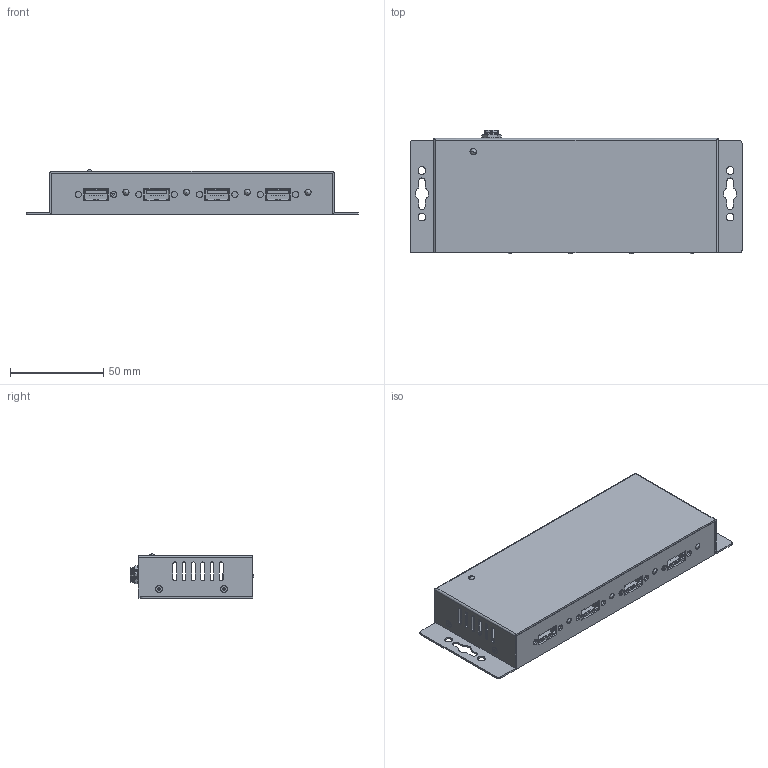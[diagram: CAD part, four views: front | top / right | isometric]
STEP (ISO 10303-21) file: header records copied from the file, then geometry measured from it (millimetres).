
FILE_DESCRIPTION(('FreeCAD Model'),'2;1');
FILE_NAME('Y:/Technische Zeichnungen/EX-1166HMV/EX-1166HMV_3D.STEP', '2018-05-09T11:20:03',('Author'),(''), 'Open CASCADE STEP processor 6.8','FreeCAD','Unknown');
FILE_SCHEMA(('AUTOMOTIVE_DESIGN_CC2 { 1 2 10303 214 -1 1 5 4 }'));
Products named in the file (1): EX-1166HMV_3D
Bounding box: 178.4 x 66.57 x 23.87 mm (x, y, z)
Volume: 48057.5 mm3; surface area: 88491 mm2
Topology: 5 solids, 5 shells, 1956 faces, 5507 edges, 3618 vertices
Faces by surface type: plane 1159, cylinder 571, cone 119, torus 56, bspline 29, sphere 22
Full cylindrical faces by diameter (mm): 3 x4, 4 x1
Entity records: 238476 total; most frequent: CARTESIAN_POINT 123803, DIRECTION 16490, ORIENTED_EDGE 10958, PCURVE 10958, DEFINITIONAL_REPRESENTATION 10958, LINE 8763, VECTOR 8763, EDGE_CURVE 5479
